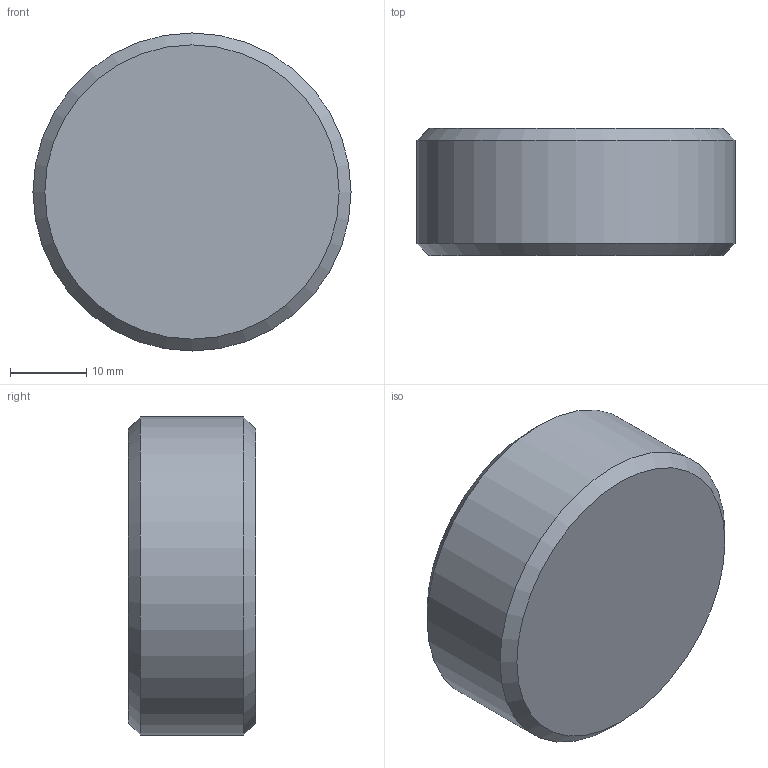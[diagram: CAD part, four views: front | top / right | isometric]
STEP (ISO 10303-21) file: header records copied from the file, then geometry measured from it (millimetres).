
FILE_DESCRIPTION(/* description */ (''),/* implementation_level */ '2;1');
FILE_NAME(/* name */ 'C:/Users/drich/Desktop/BF-1-1_4 v1.step',/* time_stamp */ '2020-01-08T20:42:16-06:00',/* author */ (''),/* organization */ (''),/* preprocessor_version */ 'ST-DEVELOPER v18',/* originating_system */ 'Autodesk Translation Framework v8.12.0.6',/* authorisation */ '');
FILE_SCHEMA (('AUTOMOTIVE_DESIGN { 1 0 10303 214 3 1 1 }'));
Length unit declared in the file: inch
Products named in the file (1): BF-1-1_4
Bounding box: 41.73 x 16.66 x 41.73 mm (x, y, z)
Volume: 18823.8 mm3; surface area: 5380.1 mm2
Topology: 1 solids, 1 shells, 13 faces, 35 edges, 25 vertices
Faces by surface type: plane 9, cone 3, cylinder 1
Full cylindrical faces by diameter (mm): 41.73 x1
Entity records: 446 total; most frequent: CARTESIAN_POINT 98, ORIENTED_EDGE 70, DIRECTION 58, EDGE_CURVE 35, VERTEX_POINT 25, AXIS2_PLACEMENT_3D 21, LINE 16, VECTOR 16
